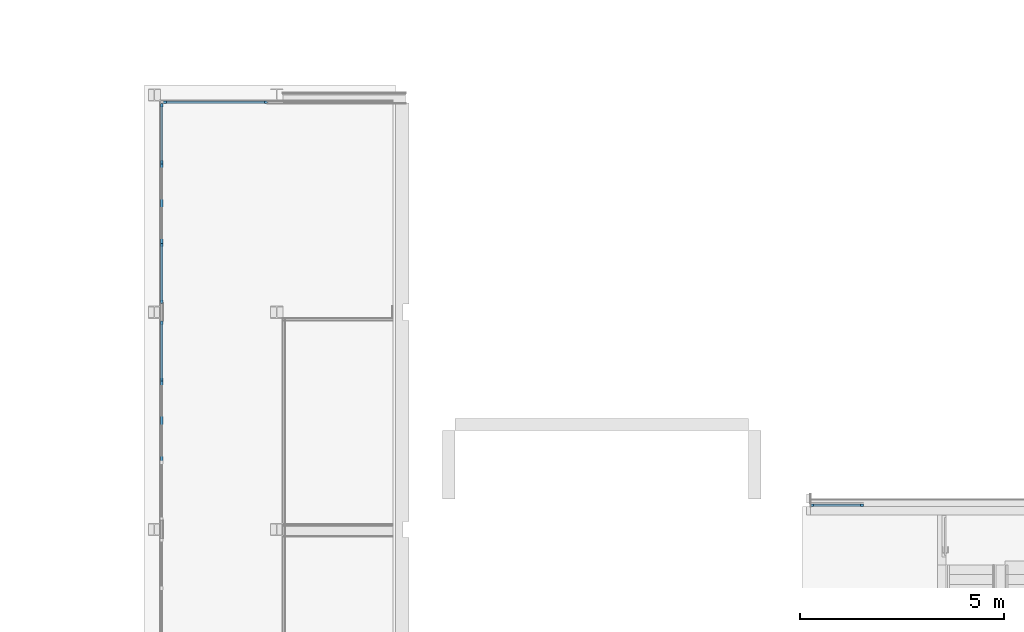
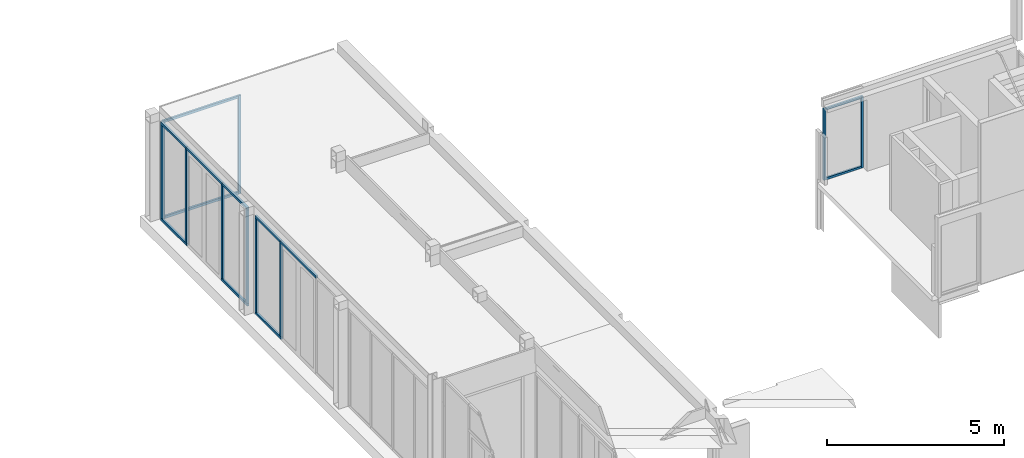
# One storey, part 4 of 99: 22 members, 4 elements without a shape of their own.
"""IFC2X3 building model written with IfcOpenShell, lengths in millimetres."""

from ifc_helpers import new_model, entity, si_unit, converted_unit, derived_unit, money_unit, direction, frame, origin_with_axes, place, context, subcontext, project, spatial, faceted_brep, source, transform, mapped, material, type_object, type_shapes, element, aggregate, save


model = new_model("IFC2X3")

# Units and contexts
model_context = context("Model", 3, precision=0.01, world=origin_with_axes(), true_north=direction((0.0, 1.0)))
body_context = subcontext(model_context, "Body", "Model", "MODEL_VIEW")
ifc_project = project(units=[si_unit("LENGTHUNIT", "METRE", prefix="MILLI"), si_unit("AREAUNIT", "SQUARE_METRE"), si_unit("VOLUMEUNIT", "CUBIC_METRE"), converted_unit("PLANEANGLEUNIT", "DEGREE", entity("IfcPlaneAngleMeasure", 0.0174532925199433), si_unit("PLANEANGLEUNIT", "RADIAN"), dimensions=[0, 0, 0, 0, 0, 0, 0]), money_unit("EUR"), converted_unit("TIMEUNIT", "Year", entity("IfcTimeMeasure", 31557600.0), si_unit("TIMEUNIT", "SECOND"), dimensions=[0, 0, 1, 0, 0, 0, 0]), si_unit("MASSUNIT", "GRAM", prefix="KILO"), si_unit("THERMODYNAMICTEMPERATUREUNIT", "DEGREE_CELSIUS"), si_unit("LUMINOUSINTENSITYUNIT", "LUMEN"), si_unit("ENERGYUNIT", "JOULE", prefix="MEGA"), derived_unit("THERMALCONDUCTANCEUNIT", [(si_unit("POWERUNIT", "WATT"), 1), (si_unit("LENGTHUNIT", "METRE"), -1), (si_unit("THERMODYNAMICTEMPERATUREUNIT", "KELVIN"), -1)]), derived_unit("SPECIFICHEATCAPACITYUNIT", [(si_unit("ENERGYUNIT", "JOULE"), 1), (si_unit("MASSUNIT", "GRAM", prefix="KILO"), -1), (si_unit("THERMODYNAMICTEMPERATUREUNIT", "KELVIN"), -1)]), derived_unit("MASSDENSITYUNIT", [(si_unit("MASSUNIT", "GRAM", prefix="KILO"), 1), (si_unit("VOLUMEUNIT", "CUBIC_METRE"), -1)])], contexts=[model_context])

# Site, building, storey
site_placement = place(None, origin_with_axes())
site = spatial("IfcSite", under=ifc_project, at=site_placement, Name="Site", CompositionType="ELEMENT")
building_placement = place(site_placement, origin_with_axes())
building = spatial("IfcBuilding", under=site, at=building_placement, Name="Naam gebouw", CompositionType="ELEMENT")
storey_placement = place(building_placement, frame((0.0, 0.0, 7650.0), z_axis=(0.0, 0.0, 1.0), x_axis=(1.0, 0.0, 0.0)))
storey = spatial("IfcBuildingStorey", under=building, at=storey_placement, Name="2e verdieping N", CompositionType="ELEMENT", Elevation=7650.0)

# Curtain wall, members
curtain_wall_type_1 = type_object("IfcCurtainWallType", Name="Curtain Wall:21_CW_alu kozijn 070x065", PredefinedType="NOTDEFINED")
curtain_wall_1_placement = place(storey_placement, frame((0.0, 0.0, -7650.0), z_axis=(0.0, 0.0, 1.0), x_axis=(1.0, 0.0, 0.0)))
curtain_wall_1 = element("IfcCurtainWall", 1, at=curtain_wall_1_placement, inside=storey, type_object=curtain_wall_type_1, Name="Curtain Wall:21_CW_alu kozijn 070x065", ObjectType="Curtain Wall:21_CW_alu kozijn 070x065")
ifc_material = material(Name="RAL 7024 - Grafietgrijs")
member_type_1 = type_object("IfcMemberType", Name="Rectangular Mullion:31_alu_070x065 RAL 7024", PredefinedType="MULLION")
shared_shape_1 = source(origin_with_axes(), body_context, "Body", "Brep", [
    faceted_brep([(0.0, -32.5, 2470.0), (-70.0, -32.50000000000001, 2470.0), (-70.0, -32.50000000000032, 0.0), (0.0, -32.50000000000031, 0.0), (0.0, 32.50000000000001, 2470.0), (-70.0, 32.5, 2470.0), (-70.0, 32.49999999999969, 0.0), (0.0, 32.49999999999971, 0.0)], [[[0, 1, 2, 3]], [[0, 4, 5, 1]], [[1, 5, 6, 2]], [[3, 2, 6, 7]], [[4, 0, 3, 7]], [[5, 4, 7, 6]]]),
])
type_shapes(member_type_1, [shared_shape_1])
member_1_placement = place(curtain_wall_1_placement, frame((30391.00000005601, 39212.4124263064, 5920.000000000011), z_axis=(0.0, 0.0, 1.0), x_axis=(-1.0, 0.0, 0.0)))
member_1 = element("IfcMember", 2, at=member_1_placement, type_object=member_type_1, material=ifc_material, Name="Rectangular Mullion:31_alu_070x065 RAL 7024", ObjectType="MULLION", context=body_context, shape_type="MappedRepresentation", body=[
    mapped(shared_shape_1, transform((0.0, 0.0, 0.0))),
])
member_type_2 = type_object("IfcMemberType", Name="Rectangular Mullion:31_alu_070x065 RAL 7024", PredefinedType="MULLION")
shared_shape_2 = source(origin_with_axes(), body_context, "Body", "Brep", [
    faceted_brep([(0.0, 32.5, -2470.0), (-70.0, 32.50000000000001, -2470.0), (-70.0, 32.50000000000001, 0.0), (0.0, 32.5, 0.0), (0.0, -32.50000000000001, -2470.0), (-70.0, -32.5, -2470.0), (-70.0, -32.5, 0.0), (0.0, -32.50000000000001, 0.0)], [[[0, 1, 2, 3]], [[0, 4, 5, 1]], [[1, 5, 6, 2]], [[3, 2, 6, 7]], [[4, 0, 3, 7]], [[5, 4, 7, 6]]]),
])
type_shapes(member_type_2, [shared_shape_2])
member_2_placement = place(curtain_wall_1_placement, frame((31685.01028266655, 39212.4124263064, 8390.00000000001), z_axis=(0.0, 0.0, 1.0), x_axis=(1.0, 0.0, 0.0)))
member_2 = element("IfcMember", 3, at=member_2_placement, type_object=member_type_2, material=ifc_material, Name="Rectangular Mullion:31_alu_070x065 RAL 7024", ObjectType="MULLION", context=body_context, shape_type="MappedRepresentation", body=[
    mapped(shared_shape_2, transform((0.0, 0.0, 0.0))),
])
member_type_3 = type_object("IfcMemberType", Name="Rectangular Mullion:31_alu_070x065 RAL 7024", PredefinedType="MULLION")
shared_shape_3 = source(origin_with_axes(), body_context, "Body", "Brep", [
    faceted_brep([(32.49999999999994, 1154.0, 0.0), (32.49999999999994, 1154.0, 70.0), (32.50000000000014, -2.993161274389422e-10, 70.0), (32.50000000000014, -2.993161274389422e-10, 0.0), (-32.50000000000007, 1154.0, 0.0), (-32.50000000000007, 1154.0, 70.0), (-32.49999999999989, -2.993161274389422e-10, 70.0), (-32.49999999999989, -2.993161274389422e-10, 0.0)], [[[0, 1, 2, 3]], [[0, 4, 5, 1]], [[1, 5, 6, 2]], [[3, 2, 6, 7]], [[4, 0, 3, 7]], [[5, 4, 7, 6]]]),
])
type_shapes(member_type_3, [shared_shape_3])
member_3_placement = place(curtain_wall_1_placement, frame((31615.01028265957, 39212.4124263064, 5920.000000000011), z_axis=(0.0, 0.0, 1.0), x_axis=(0.0, 1.0, 0.0)))
member_3 = element("IfcMember", 4, at=member_3_placement, type_object=member_type_3, material=ifc_material, Name="Rectangular Mullion:31_alu_070x065 RAL 7024", ObjectType="MULLION", context=body_context, shape_type="MappedRepresentation", body=[
    mapped(shared_shape_3, transform((0.0, 0.0, 0.0))),
])
member_type_4 = type_object("IfcMemberType", Name="Rectangular Mullion:31_alu_070x065 RAL 7024", PredefinedType="MULLION")
shared_shape_4 = source(origin_with_axes(), body_context, "Body", "Brep", [
    faceted_brep([(32.50000000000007, -1154.0, 0.0), (32.50000000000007, -1154.0, -70.0), (32.49999999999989, 2.993161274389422e-10, -70.0), (32.49999999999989, 2.993161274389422e-10, 0.0), (-32.49999999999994, -1154.0, 0.0), (-32.49999999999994, -1154.0, -70.0), (-32.50000000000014, 2.993161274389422e-10, -70.0), (-32.50000000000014, 2.993161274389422e-10, 0.0)], [[[0, 1, 2, 3]], [[0, 4, 5, 1]], [[1, 5, 6, 2]], [[3, 2, 6, 7]], [[4, 0, 3, 7]], [[5, 4, 7, 6]]]),
])
type_shapes(member_type_4, [shared_shape_4])
member_4_placement = place(curtain_wall_1_placement, frame((30461.00000003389, 39212.41242624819, 8390.00000000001), z_axis=(0.0, 0.0, 1.0), x_axis=(0.0, 1.0, 0.0)))
member_4 = element("IfcMember", 5, at=member_4_placement, type_object=member_type_4, material=ifc_material, Name="Rectangular Mullion:31_alu_070x065 RAL 7024", ObjectType="MULLION", context=body_context, shape_type="MappedRepresentation", body=[
    mapped(shared_shape_4, transform((0.0, 0.0, 0.0))),
])
aggregate(curtain_wall_1, [member_4, member_3, member_1, member_2])

# Curtain wall, member
curtain_wall_type_2 = type_object("IfcCurtainWallType", Name="Curtain Wall:21_CW_alu kozijn 084x065", PredefinedType="NOTDEFINED")
curtain_wall_2_placement = place(storey_placement, frame((0.0, 0.0, -7650.0), z_axis=(0.0, 0.0, 1.0), x_axis=(1.0, 0.0, 0.0)))
curtain_wall_2 = element("IfcCurtainWall", 6, at=curtain_wall_2_placement, inside=storey, type_object=curtain_wall_type_2, Name="Curtain Wall:21_CW_alu kozijn 084x065", ObjectType="Curtain Wall:21_CW_alu kozijn 084x065")
member_type_5 = type_object("IfcMemberType", Name="Rectangular Mullion:31_alu_084x065 RAL 7024", PredefinedType="MULLION")
shared_shape_5 = source(origin_with_axes(), body_context, "Body", "Brep", [
    faceted_brep([(42.00000000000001, -32.49999999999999, 3232.0), (-41.99999999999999, -32.50000000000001, 3232.0), (-41.99999999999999, -32.50000000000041, 0.0), (42.00000000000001, -32.50000000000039, 0.0), (41.99999999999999, 32.50000000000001, 3232.0), (-42.00000000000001, 32.49999999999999, 3232.0), (-42.00000000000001, 32.4999999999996, 0.0), (41.99999999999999, 32.49999999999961, 0.0)], [[[0, 1, 2, 3]], [[0, 4, 5, 1]], [[1, 5, 6, 2]], [[3, 2, 6, 7]], [[4, 0, 3, 7]], [[5, 4, 7, 6]]]),
])
type_shapes(member_type_5, [shared_shape_5])
member_5_placement = place(curtain_wall_2_placement, frame((14474.50000003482, 42295.91242631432, 4234.000000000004), z_axis=(0.0, 0.0, 1.0), x_axis=(0.0, 1.0, 0.0)))
member_5 = element("IfcMember", 7, at=member_5_placement, type_object=member_type_5, material=ifc_material, Name="Rectangular Mullion:31_alu_084x065 RAL 7024", ObjectType="MULLION", context=body_context, shape_type="MappedRepresentation", body=[
    mapped(shared_shape_5, transform((0.0, 0.0, 0.0))),
])

# Curtain wall, members
curtain_wall_3_placement = place(storey_placement, frame((0.0, 0.0, -7650.0), z_axis=(0.0, 0.0, 1.0), x_axis=(1.0, 0.0, 0.0)))
curtain_wall_3 = element("IfcCurtainWall", 8, at=curtain_wall_3_placement, inside=storey, type_object=curtain_wall_type_2, Name="Curtain Wall:21_CW_alu kozijn 084x065", ObjectType="Curtain Wall:21_CW_alu kozijn 084x065")
member_6_placement = place(curtain_wall_3_placement, frame((14474.50000006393, 47625.91242627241, 4234.000000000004), z_axis=(0.0, 0.0, 1.0), x_axis=(0.0, 1.0, 0.0)))
member_6 = element("IfcMember", 9, at=member_6_placement, type_object=member_type_5, material=ifc_material, Name="Rectangular Mullion:31_alu_084x065 RAL 7024", ObjectType="MULLION", context=body_context, shape_type="MappedRepresentation", body=[
    mapped(shared_shape_5, transform((0.0, 0.0, 0.0))),
])
member_7_placement = place(curtain_wall_3_placement, frame((14474.50000003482, 45595.91242624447, 4234.000000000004), z_axis=(0.0, 0.0, 1.0), x_axis=(0.0, 1.0, 0.0)))
member_7 = element("IfcMember", 10, at=member_7_placement, type_object=member_type_5, material=ifc_material, Name="Rectangular Mullion:31_alu_084x065 RAL 7024", ObjectType="MULLION", context=body_context, shape_type="MappedRepresentation", body=[
    mapped(shared_shape_5, transform((0.0, 0.0, 0.0))),
])

# Member
member_type_6 = type_object("IfcMemberType", Name="Rectangular Mullion:31_alu_084x065 RAL 7024", PredefinedType="MULLION")
shared_shape_6 = source(origin_with_axes(), body_context, "Body", "Brep", [
    faceted_brep([(0.0, -32.5, 3232.0), (-83.99999999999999, -32.50000000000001, 3232.0), (-83.99999999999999, -32.50000000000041, 0.0), (0.0, -32.5000000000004, 0.0), (0.0, 32.50000000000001, 3232.0), (-84.00000000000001, 32.5, 3232.0), (-84.00000000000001, 32.4999999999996, 0.0), (0.0, 32.49999999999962, 0.0)], [[[0, 1, 2, 3]], [[0, 4, 5, 1]], [[1, 5, 6, 2]], [[3, 2, 6, 7]], [[4, 0, 3, 7]], [[5, 4, 7, 6]]]),
])
type_shapes(member_type_6, [shared_shape_6])
member_8_placement = place(curtain_wall_2_placement, frame((14474.50000006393, 43730.91242625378, 4234.000000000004), z_axis=(0.0, 0.0, 1.0), x_axis=(0.0, 1.0, 0.0)))
member_8 = element("IfcMember", 11, at=member_8_placement, type_object=member_type_6, material=ifc_material, Name="Rectangular Mullion:31_alu_084x065 RAL 7024", ObjectType="MULLION", context=body_context, shape_type="MappedRepresentation", body=[
    mapped(shared_shape_6, transform((0.0, 0.0, 0.0))),
])

member_9_placement = place(curtain_wall_3_placement, frame((14474.50000003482, 49060.91242632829, 4234.000000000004), z_axis=(0.0, 0.0, 1.0), x_axis=(0.0, 1.0, 0.0)))
member_9 = element("IfcMember", 12, at=member_9_placement, type_object=member_type_6, material=ifc_material, Name="Rectangular Mullion:31_alu_084x065 RAL 7024", ObjectType="MULLION", context=body_context, shape_type="MappedRepresentation", body=[
    mapped(shared_shape_6, transform((0.0, 0.0, 0.0))),
])

member_type_7 = type_object("IfcMemberType", Name="Rectangular Mullion:31_alu_084x065 RAL 7024", PredefinedType="MULLION")
shared_shape_7 = source(origin_with_axes(), body_context, "Body", "Brep", [
    faceted_brep([(0.0, 32.5, -3232.0), (-83.99999999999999, 32.50000000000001, -3232.0), (-83.99999999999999, 32.50000000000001, 0.0), (0.0, 32.5, 0.0), (0.0, -32.50000000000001, -3232.0), (-84.00000000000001, -32.5, -3232.0), (-84.00000000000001, -32.5, 0.0), (0.0, -32.50000000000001, 0.0)], [[[0, 1, 2, 3]], [[0, 4, 5, 1]], [[1, 5, 6, 2]], [[3, 2, 6, 7]], [[4, 0, 3, 7]], [[5, 4, 7, 6]]]),
])
type_shapes(member_type_7, [shared_shape_7])
member_10_placement = place(curtain_wall_3_placement, frame((14474.50000006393, 44160.912426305, 7466.000000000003), z_axis=(0.0, 0.0, 1.0), x_axis=(0.0, -1.0, 0.0)))
member_10 = element("IfcMember", 13, at=member_10_placement, type_object=member_type_7, material=ifc_material, Name="Rectangular Mullion:31_alu_084x065 RAL 7024", ObjectType="MULLION", context=body_context, shape_type="MappedRepresentation", body=[
    mapped(shared_shape_7, transform((0.0, 0.0, 0.0))),
])

member_type_8 = type_object("IfcMemberType", Name="Rectangular Mullion:31_alu_084x065 RAL 7024", PredefinedType="MULLION")
shared_shape_8 = source(origin_with_axes(), body_context, "Body", "Brep", [
    faceted_brep([(32.50000000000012, -2030.0, 0.0), (32.50000000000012, -2030.0, -84.0), (32.49999999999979, -1.971756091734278e-10, -84.0), (32.49999999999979, -1.971756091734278e-10, 0.0), (-32.4999999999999, -2030.0, 0.0), (-32.4999999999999, -2030.0, -84.0), (-32.50000000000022, -1.971756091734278e-10, -84.0), (-32.50000000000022, -1.971756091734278e-10, 0.0)], [[[0, 1, 2, 3]], [[0, 4, 5, 1]], [[1, 5, 6, 2]], [[3, 2, 6, 7]], [[4, 0, 3, 7]], [[5, 4, 7, 6]]]),
])
type_shapes(member_type_8, [shared_shape_8])
member_11_placement = place(curtain_wall_2_placement, frame((14474.50000003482, 42295.91242631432, 7550.000000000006), z_axis=(0.0, 0.0, 1.0), x_axis=(1.0, 0.0, 0.0)))
member_11 = element("IfcMember", 14, at=member_11_placement, type_object=member_type_8, material=ifc_material, Name="Rectangular Mullion:31_alu_084x065 RAL 7024", ObjectType="MULLION", context=body_context, shape_type="MappedRepresentation", body=[
    mapped(shared_shape_8, transform((0.0, 0.0, 0.0))),
])

member_12_placement = place(curtain_wall_3_placement, frame((14474.50000006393, 47625.91242627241, 7550.000000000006), z_axis=(0.0, 0.0, 1.0), x_axis=(1.0, 0.0, 0.0)))
member_12 = element("IfcMember", 15, at=member_12_placement, type_object=member_type_8, material=ifc_material, Name="Rectangular Mullion:31_alu_084x065 RAL 7024", ObjectType="MULLION", context=body_context, shape_type="MappedRepresentation", body=[
    mapped(shared_shape_8, transform((0.0, 0.0, 0.0))),
])

member_type_9 = type_object("IfcMemberType", Name="Rectangular Mullion:31_alu_084x065 RAL 7024", PredefinedType="MULLION")
shared_shape_9 = source(origin_with_axes(), body_context, "Body", "Brep", [
    faceted_brep([(32.49999999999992, 1477.0, 0.0), (32.49999999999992, 1477.0, 84.0), (32.50000000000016, -1.727507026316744e-10, 84.0), (32.50000000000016, -1.727507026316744e-10, 0.0), (-32.50000000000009, 1477.0, 0.0), (-32.50000000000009, 1477.0, 84.0), (-32.49999999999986, -1.727507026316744e-10, 84.0), (-32.49999999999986, -1.727507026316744e-10, 0.0)], [[[0, 1, 2, 3]], [[0, 4, 5, 1]], [[1, 5, 6, 2]], [[3, 2, 6, 7]], [[4, 0, 3, 7]], [[5, 4, 7, 6]]]),
])
type_shapes(member_type_9, [shared_shape_9])
member_13_placement = place(curtain_wall_2_placement, frame((14474.50000006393, 42253.91242629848, 4150.0), z_axis=(0.0, 0.0, 1.0), x_axis=(1.0, 0.0, 0.0)))
member_13 = element("IfcMember", 16, at=member_13_placement, type_object=member_type_9, material=ifc_material, Name="Rectangular Mullion:31_alu_084x065 RAL 7024", ObjectType="MULLION", context=body_context, shape_type="MappedRepresentation", body=[
    mapped(shared_shape_9, transform((0.0, 0.0, 0.0))),
])

member_14_placement = place(curtain_wall_3_placement, frame((14474.50000003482, 47583.91242631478, 4150.0), z_axis=(0.0, 0.0, 1.0), x_axis=(1.0, 0.0, 0.0)))
member_14 = element("IfcMember", 17, at=member_14_placement, type_object=member_type_9, material=ifc_material, Name="Rectangular Mullion:31_alu_084x065 RAL 7024", ObjectType="MULLION", context=body_context, shape_type="MappedRepresentation", body=[
    mapped(shared_shape_9, transform((0.0, 0.0, 0.0))),
])

member_15_placement = place(curtain_wall_3_placement, frame((14474.50000006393, 44160.912426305, 4150.0), z_axis=(0.0, 0.0, 1.0), x_axis=(1.0, 0.0, 0.0)))
member_15 = element("IfcMember", 18, at=member_15_placement, type_object=member_type_9, material=ifc_material, Name="Rectangular Mullion:31_alu_084x065 RAL 7024", ObjectType="MULLION", context=body_context, shape_type="MappedRepresentation", body=[
    mapped(shared_shape_9, transform((0.0, 0.0, 0.0))),
])

member_type_10 = type_object("IfcMemberType", Name="Rectangular Mullion:31_alu_084x065 RAL 7024", PredefinedType="MULLION")
shared_shape_10 = source(origin_with_axes(), body_context, "Body", "Brep", [
    faceted_brep([(32.50000000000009, -1435.0, 0.0), (32.50000000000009, -1435.0, -84.0), (32.49999999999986, 1.729727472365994e-10, -84.0), (32.49999999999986, 1.729727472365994e-10, 0.0), (-32.49999999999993, -1435.0, 0.0), (-32.49999999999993, -1435.0, -84.0), (-32.50000000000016, 1.729727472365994e-10, -84.0), (-32.50000000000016, 1.729727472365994e-10, 0.0)], [[[0, 1, 2, 3]], [[0, 4, 5, 1]], [[1, 5, 6, 2]], [[3, 2, 6, 7]], [[4, 0, 3, 7]], [[5, 4, 7, 6]]]),
])
type_shapes(member_type_10, [shared_shape_10])
member_16_placement = place(curtain_wall_2_placement, frame((14474.50000006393, 43730.91242625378, 7550.000000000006), z_axis=(0.0, 0.0, 1.0), x_axis=(1.0, 0.0, 0.0)))
member_16 = element("IfcMember", 19, at=member_16_placement, type_object=member_type_10, material=ifc_material, Name="Rectangular Mullion:31_alu_084x065 RAL 7024", ObjectType="MULLION", context=body_context, shape_type="MappedRepresentation", body=[
    mapped(shared_shape_10, transform((0.0, 0.0, 0.0))),
])

aggregate(curtain_wall_2, [member_13, member_11, member_5, member_8, member_16])

member_type_11 = type_object("IfcMemberType", Name="Rectangular Mullion:31_alu_084x065 RAL 7024", PredefinedType="MULLION")
type_shapes(member_type_11, [shared_shape_10])
member_17_placement = place(curtain_wall_3_placement, frame((14474.50000003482, 45595.91242624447, 7550.000000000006), z_axis=(0.0, 0.0, 1.0), x_axis=(1.0, 0.0, 0.0)))
member_17 = element("IfcMember", 20, at=member_17_placement, type_object=member_type_11, material=ifc_material, Name="Rectangular Mullion:31_alu_084x065 RAL 7024", ObjectType="MULLION", context=body_context, shape_type="MappedRepresentation", body=[
    mapped(shared_shape_10, transform((0.0, 0.0, 0.0))),
])

member_18_placement = place(curtain_wall_3_placement, frame((14474.50000003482, 49060.91242632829, 7550.000000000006), z_axis=(0.0, 0.0, 1.0), x_axis=(1.0, 0.0, 0.0)))
member_18 = element("IfcMember", 21, at=member_18_placement, type_object=member_type_10, material=ifc_material, Name="Rectangular Mullion:31_alu_084x065 RAL 7024", ObjectType="MULLION", context=body_context, shape_type="MappedRepresentation", body=[
    mapped(shared_shape_10, transform((0.0, 0.0, 0.0))),
])

aggregate(curtain_wall_3, [member_14, member_17, member_6, member_10, member_7, member_9, member_18, member_12, member_15])

# Curtain wall, members
curtain_wall_4_placement = place(storey_placement, frame((0.0, 0.0, -7650.0), z_axis=(0.0, 0.0, 1.0), x_axis=(1.0, 0.0, 0.0)))
curtain_wall_4 = element("IfcCurtainWall", 22, at=curtain_wall_4_placement, inside=storey, type_object=curtain_wall_type_2, Name="Curtain Wall:21_CW_alu kozijn 084x065", ObjectType="Curtain Wall:21_CW_alu kozijn 084x065")
member_type_12 = type_object("IfcMemberType", Name="Rectangular Mullion:31_alu_084x065 RAL 7024", PredefinedType="MULLION")
shared_shape_11 = source(origin_with_axes(), body_context, "Body", "Brep", [
    faceted_brep([(0.0, 32.5, -3400.0), (-83.99999999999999, 32.50000000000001, -3400.0), (-83.99999999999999, 32.50000000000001, 0.0), (0.0, 32.5, 0.0), (0.0, -32.50000000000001, -3400.0), (-84.00000000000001, -32.5, -3400.0), (-84.00000000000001, -32.5, 0.0), (0.0, -32.50000000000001, 0.0)], [[[0, 1, 2, 3]], [[0, 4, 5, 1]], [[1, 5, 6, 2]], [[3, 2, 6, 7]], [[4, 0, 3, 7]], [[5, 4, 7, 6]]]),
])
type_shapes(member_type_12, [shared_shape_11])
member_19_placement = place(curtain_wall_4_placement, frame((14507.00000003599, 49093.41242630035, 7550.000000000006), z_axis=(0.0, 0.0, 1.0), x_axis=(-1.0, 0.0, 0.0)))
member_19 = element("IfcMember", 23, at=member_19_placement, type_object=member_type_12, material=ifc_material, Name="Rectangular Mullion:31_alu_084x065 RAL 7024", ObjectType="MULLION", context=body_context, shape_type="MappedRepresentation", body=[
    mapped(shared_shape_11, transform((0.0, 0.0, 0.0))),
])
member_type_13 = type_object("IfcMemberType", Name="Rectangular Mullion:31_alu_084x065 RAL 7024", PredefinedType="MULLION")
shared_shape_12 = source(origin_with_axes(), body_context, "Body", "Brep", [
    faceted_brep([(0.0, -32.5, 3400.0), (-83.99999999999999, -32.50000000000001, 3400.0), (-83.99999999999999, -32.50000000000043, 0.0), (0.0, -32.50000000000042, 0.0), (0.0, 32.50000000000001, 3400.0), (-84.00000000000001, 32.5, 3400.0), (-84.00000000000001, 32.49999999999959, 0.0), (0.0, 32.4999999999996, 0.0)], [[[0, 1, 2, 3]], [[0, 4, 5, 1]], [[1, 5, 6, 2]], [[3, 2, 6, 7]], [[4, 0, 3, 7]], [[5, 4, 7, 6]]]),
])
type_shapes(member_type_13, [shared_shape_12])
member_20_placement = place(curtain_wall_4_placement, frame((17076.00000002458, 49093.41242635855, 4150.0), z_axis=(0.0, 0.0, 1.0), x_axis=(1.0, 0.0, 0.0)))
member_20 = element("IfcMember", 24, at=member_20_placement, type_object=member_type_13, material=ifc_material, Name="Rectangular Mullion:31_alu_084x065 RAL 7024", ObjectType="MULLION", context=body_context, shape_type="MappedRepresentation", body=[
    mapped(shared_shape_12, transform((0.0, 0.0, 0.0))),
])
member_type_14 = type_object("IfcMemberType", Name="Rectangular Mullion:31_alu_084x065 RAL 7024", PredefinedType="MULLION")
shared_shape_13 = source(origin_with_axes(), body_context, "Body", "Brep", [
    faceted_brep([(32.50000000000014, -2401.0, 0.0), (32.50000000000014, -2401.0, -84.0), (32.49999999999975, 0.0, -84.0), (32.49999999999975, 0.0, 0.0), (-32.49999999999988, -2401.0, 0.0), (-32.49999999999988, -2401.0, -84.0), (-32.50000000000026, 0.0, -84.0), (-32.50000000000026, 0.0, 0.0)], [[[0, 1, 2, 3]], [[0, 4, 5, 1]], [[1, 5, 6, 2]], [[3, 2, 6, 7]], [[4, 0, 3, 7]], [[5, 4, 7, 6]]]),
])
type_shapes(member_type_14, [shared_shape_13])
member_21_placement = place(curtain_wall_4_placement, frame((16992.00000005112, 49093.41242630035, 7550.000000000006), z_axis=(0.0, 0.0, 1.0), x_axis=(0.0, -1.0, 0.0)))
member_21 = element("IfcMember", 25, at=member_21_placement, type_object=member_type_14, material=ifc_material, Name="Rectangular Mullion:31_alu_084x065 RAL 7024", ObjectType="MULLION", context=body_context, shape_type="MappedRepresentation", body=[
    mapped(shared_shape_13, transform((0.0, 0.0, 0.0))),
])
member_type_15 = type_object("IfcMemberType", Name="Rectangular Mullion:31_alu_084x065 RAL 7024", PredefinedType="MULLION")
shared_shape_14 = source(origin_with_axes(), body_context, "Body", "Brep", [
    faceted_brep([(32.49999999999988, 2401.0, 0.0), (32.49999999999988, 2401.0, 84.0), (32.50000000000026, 0.0, 84.0), (32.50000000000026, 0.0, 0.0), (-32.50000000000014, 2401.0, 0.0), (-32.50000000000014, 2401.0, 84.0), (-32.49999999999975, 0.0, 84.0), (-32.49999999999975, 0.0, 0.0)], [[[0, 1, 2, 3]], [[0, 4, 5, 1]], [[1, 5, 6, 2]], [[3, 2, 6, 7]], [[4, 0, 3, 7]], [[5, 4, 7, 6]]]),
])
type_shapes(member_type_15, [shared_shape_14])
member_22_placement = place(curtain_wall_4_placement, frame((14591.00000003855, 49093.41242630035, 4150.0), z_axis=(0.0, 0.0, 1.0), x_axis=(0.0, -1.0, 0.0)))
member_22 = element("IfcMember", 26, at=member_22_placement, type_object=member_type_15, material=ifc_material, Name="Rectangular Mullion:31_alu_084x065 RAL 7024", ObjectType="MULLION", context=body_context, shape_type="MappedRepresentation", body=[
    mapped(shared_shape_14, transform((0.0, 0.0, 0.0))),
])
aggregate(curtain_wall_4, [member_19, member_20, member_22, member_21])

save(model, "model.ifc")
